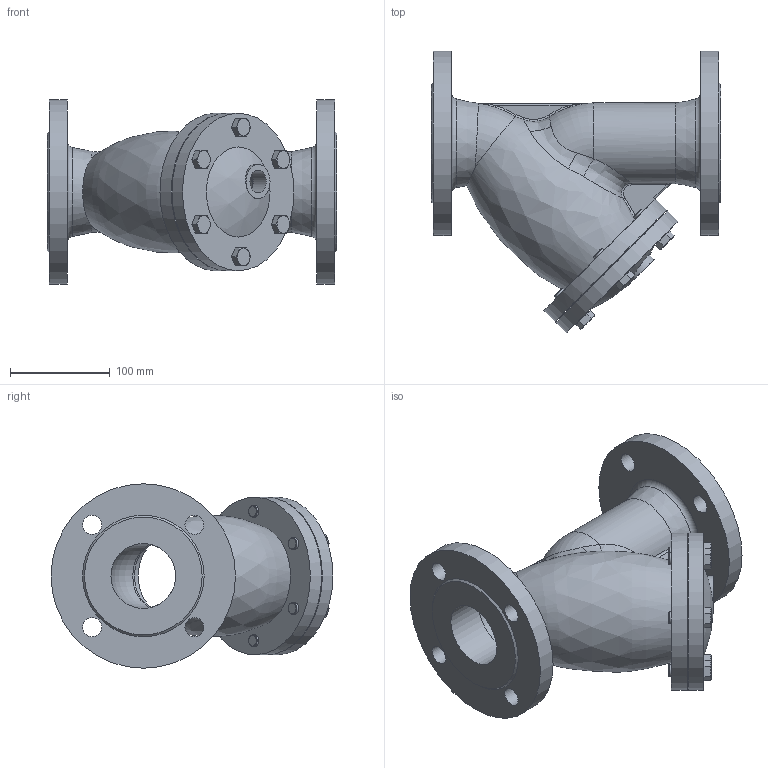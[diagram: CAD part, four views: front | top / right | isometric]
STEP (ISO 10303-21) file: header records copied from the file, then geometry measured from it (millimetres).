
FILE_DESCRIPTION(/* description */ ('STEP AP203'),/* implementation_level */ '2;1');
FILE_NAME(/* name */ '',/* time_stamp */ '2024-11-28T18:33:28+07:00',/* author */ ('Eva'),/* organization */ (''),/* preprocessor_version */ 'ST-DEVELOPER v20',/* originating_system */ 'Autodesk Inventor 2025',/* authorisation */ '');
FILE_SCHEMA (('AUTOMOTIVE_DESIGN { 1 0 10303 214 3 1 1 }'));
Length unit declared in the file: metre
Products named in the file (5): 德标过滤器65装配体1; 德标过滤器65装配体1(2); 65阀体; 65阀盖; hexagon head bolts-full thread gb_GB_FASTENER_BOLT_STBAB A M12X35-N
Assembly tree (9 placements, depth 3):
  德标过滤器65装配体1
    德标过滤器65装配体1(2)
      65阀体
      65阀盖
      hexagon head bolts-full thread gb_GB_FASTENER_BOLT_STBAB A M12X35-N  x6
Bounding box: 290 x 282.71 x 185 mm (x, y, z)
Volume: 2163363.7 mm3; surface area: 403395.2 mm2
Topology: 8 solids, 8 shells, 266 faces, 642 edges, 399 vertices
Faces by surface type: plane 113, cone 53, cylinder 47, bspline 38, torus 14, sphere 1
Full cylindrical faces by diameter (mm): 12 x12, 15 x6, 19 x8, 22.9 x1, 34 x1, 65 x3, 67 x1, 74 x2, 75 x1, 81 x1, 158 x2, 185 x2
Entity records: 10437 total; most frequent: CARTESIAN_POINT 6964, ORIENTED_EDGE 716, DIRECTION 652, EDGE_CURVE 358, AXIS2_PLACEMENT_3D 288, VERTEX_POINT 224, EDGE_LOOP 198, CIRCLE 161
